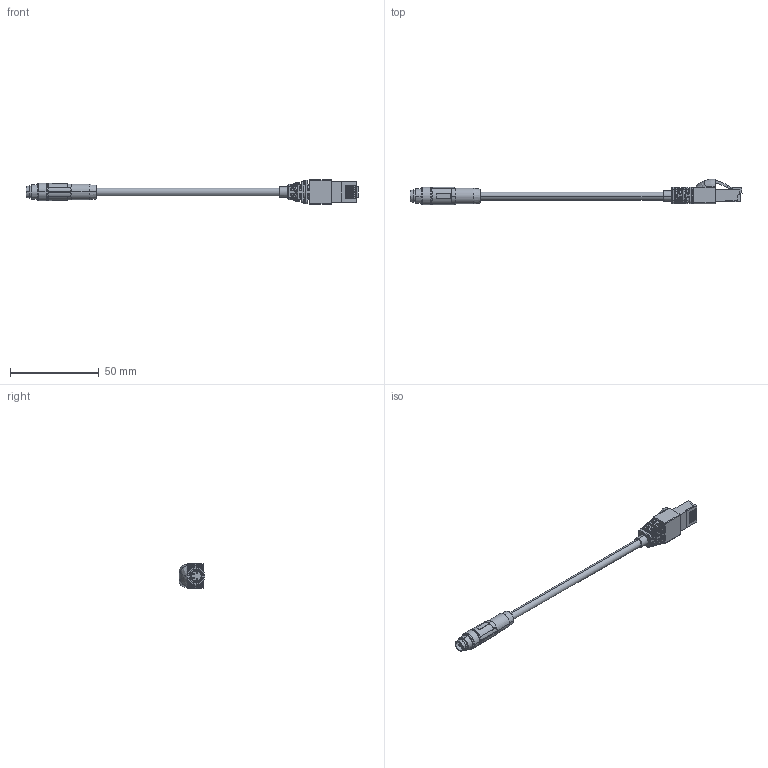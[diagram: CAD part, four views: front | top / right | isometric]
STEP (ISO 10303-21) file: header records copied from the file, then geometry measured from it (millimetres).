
FILE_DESCRIPTION (( 'STEP AP214' ), '1' );
FILE_NAME ('UZ00062.STEP', '2025-02-21T08:09:17', ( '' ), ( '' ), 'SwSTEP 2.0', 'SolidWorks 2022', '' );
FILE_SCHEMA (( 'AUTOMOTIVE_DESIGN' ));
Length unit declared in the file: millimetre
Products named in the file (1): UZ00062
Bounding box: 187.2 x 14.59 x 13.9 mm (x, y, z)
Volume: 8243.6 mm3; surface area: 5386 mm2
Topology: 1 solids, 1 shells, 540 faces, 1341 edges, 806 vertices
Faces by surface type: cylinder 214, plane 181, bspline 83, torus 43, sphere 13, cone 6
Entity records: 19026 total; most frequent: CARTESIAN_POINT 5555, ORIENTED_EDGE 2656, DIRECTION 2443, EDGE_CURVE 1328, AXIS2_PLACEMENT_3D 879, VERTEX_POINT 806, VECTOR 685, LINE 685
